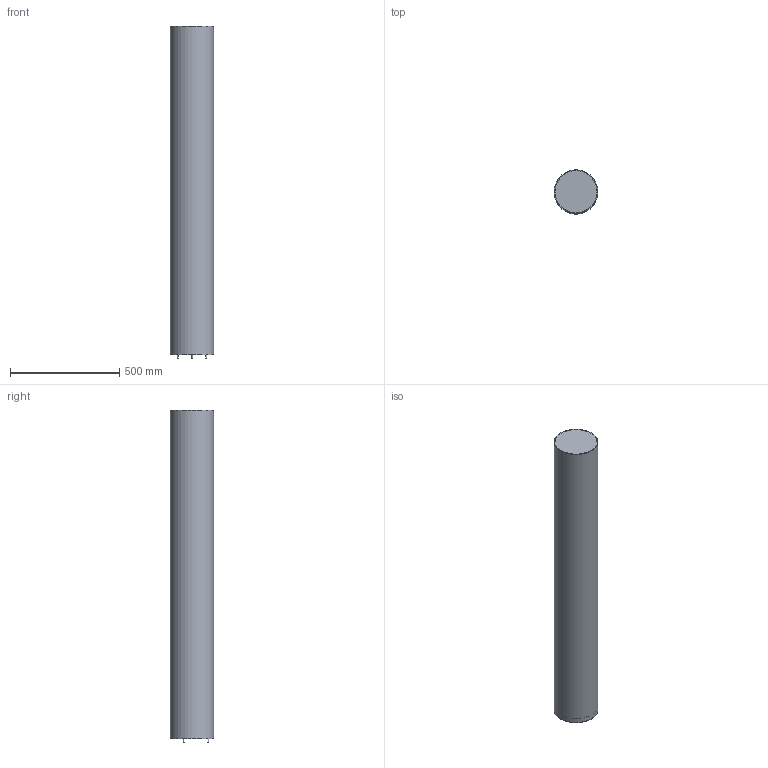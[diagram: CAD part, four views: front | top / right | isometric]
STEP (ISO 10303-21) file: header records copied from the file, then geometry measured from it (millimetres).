
FILE_DESCRIPTION(/* description */ (''),/* implementation_level */ '2;1');
FILE_NAME(/* name */ 'C:/Users/LukasGröber/GMS Cloud/Groeber Mannheim Lichtwerke - Dokumente/Marketing/Produkte/3D Daten/Apollo Sahara/Apollo Sahara 162.step',/* time_stamp */ '2022-07-06T12:45:17+02:00',/* author */ (''),/* organization */ (''),/* preprocessor_version */ 'ST-DEVELOPER v18.1',/* originating_system */ 'Autodesk Translation Framework v10.10.0.1391',/* authorisation */ '');
FILE_SCHEMA (('AUTOMOTIVE_DESIGN { 1 0 10303 214 3 1 1 }'));
Length unit declared in the file: millimetre
Products named in the file (4): Apollo Sahara 162; Fuß Apollo (Modell); Rohr Apollo Sahara 162 mit Deckel; Deckel Apollo
Assembly tree (3 placements, depth 3):
  Apollo Sahara 162
    Fuß Apollo (Modell)
    Rohr Apollo Sahara 162 mit Deckel
      Deckel Apollo
Bounding box: 200 x 200 x 1521 mm (x, y, z)
Volume: 3622886 mm3; surface area: 2006874.7 mm2
Topology: 3 solids, 3 shells, 21 faces, 29 edges, 19 vertices
Faces by surface type: plane 11, cylinder 9, cone 1
Full cylindrical faces by diameter (mm): 5 x3, 193 x1, 194 x2, 200 x3
Entity records: 585 total; most frequent: DIRECTION 104, CARTESIAN_POINT 76, ORIENTED_EDGE 58, AXIS2_PLACEMENT_3D 47, EDGE_CURVE 29, EDGE_LOOP 28, FACE_OUTER_BOUND 21, ADVANCED_FACE 21
